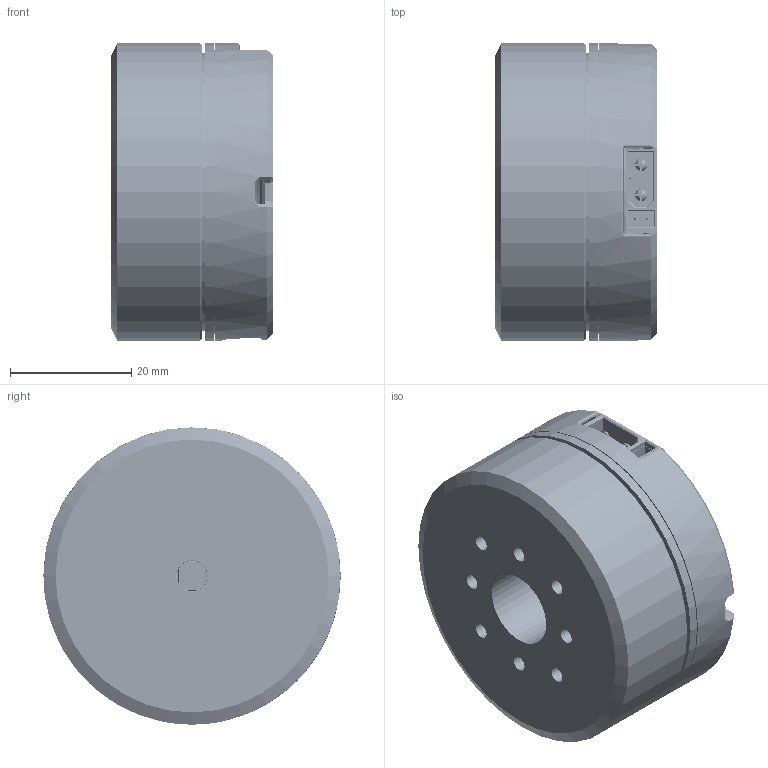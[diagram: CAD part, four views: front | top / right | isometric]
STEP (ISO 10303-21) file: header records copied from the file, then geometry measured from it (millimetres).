
FILE_DESCRIPTION(/* description */ (''),/* implementation_level */ '2;1');
FILE_NAME(/* name */ 'QD4310.step',/* time_stamp */ '2025-11-13T14:29:46+08:00',/* author */ (''),/* organization */ (''),/* preprocessor_version */ 'ST-DEVELOPER v20.1',/* originating_system */ 'Autodesk Translation Framework v14.17.0.0',/* authorisation */ '');
FILE_SCHEMA (('AUTOMOTIVE_DESIGN { 1 0 10303 214 3 1 1 }'));
Products named in the file (197): QD4310; PCB; Board; Open CASCADE STEP translator 7.5 1.1.1; L3; 1206; 1206-157_ASM; 1206-7095_ASM; 5_100; 4_100; _3_10001; D5; C29; D7; D6; L2; 0402; 0402-5748_AF0_ASM; 0402-2320_AF0_ASM; _20001; 500; 4_A; D3; DFN1006-2L_L1.0-W0.6-P0.70; R21; R20; D1; JP1; HC0.8-WT-4P; R10; R0603; R_0603-3615_AF0_ASM; R_0603-3601_AF0_ASM; D2; LED1; LED2; LED 0402 Lens GREEN; LED; LED_0402_BASE_GREEN_1_ASM_1_1_ASM; BOSS-EXTRUDE3_1_2_3_4_1_1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
Assembly tree (502 placements, depth 7):
  QD4310
    PCB
      Board
        Open CASCADE STEP translator 7.5 1.1.1
      L3
        1206
          1206-157_ASM
            1206-7095_ASM
              5_100
              4_100
              _3_10001
      D5
        SOD-323
          SOD-123-13203_AF0_ASM
            SOD-123-14174_AF0
      C29
        C 0603
          C_0603-7177_AF0_ASM
            C_0603-683_AF0_ASM
              2_1_200
              _1_1_20001
              3_1_2_A
      D7
        DFN1006-2L_L1.0-W0.6-P0.70
      D6
        DFN1006-2L_L1.0-W0.6-P0.70
      L2
        0402
          0402-5748_AF0_ASM
            0402-2320_AF0_ASM
              _20001
              500
              4_A
      D3
        DFN1006-2L_L1.0-W0.6-P0.70
      R21
        R0402
          R_0402-5222_AF0_ASM
            R_0402-3099_AF0_ASM
              _2_1_20001
              5_1_2_A
              _7_AF0
      R20
        R0402
          R_0402-5222_AF0_ASM
            R_0402-3099_AF0_ASM
              _2_1_20001
              5_1_2_A
              _7_AF0
      D1
        SOD-323
          SOD-123-13203_AF0_ASM
            SOD-123-14174_AF0
      JP1
        HC0.8-WT-4P
      R10
        R0603
          R_0603-3615_AF0_ASM
            R_0603-3601_AF0_ASM
              _2_1_2_3_4_AF0
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Bounding box: 26.67 x 49 x 49 mm (x, y, z)
Volume: 35413 mm3; surface area: 26680.1 mm2
Topology: 466 solids, 490 shells, 36240 faces, 94636 edges, 61997 vertices
Faces by surface type: plane 25456, bspline 7592, cylinder 2468, sphere 383, torus 329, cone 12
Full cylindrical faces by diameter (mm): 0.25 x9, 0.3 x1, 0.364 x2, 0.5 x3, 0.7 x1, 0.75 x2, 0.914 x2, 1.6 x7, 1.9 x2, 2.05 x4, 2.075 x4, 2.5 x4, 2.504 x4, 2.529 x8, 2.7 x1, 2.9 x4, 5 x1, 5.727 x4, 8.5 x1, 9.4 x1, 9.5 x1, 12.6 x2, 16.6 x1, 36 x1, 40 x1, 46 x1, 47 x2, 47.568 x1, 49 x3
Entity records: 421745 total; most frequent: CARTESIAN_POINT 143350, ORIENTED_EDGE 61158, DIRECTION 45953, EDGE_CURVE 30579, LINE 22429, VECTOR 22429, VERTEX_POINT 20127, EDGE_LOOP 12518
